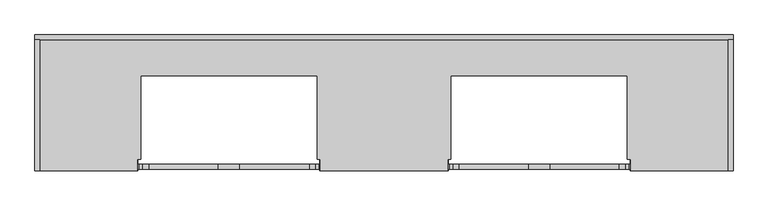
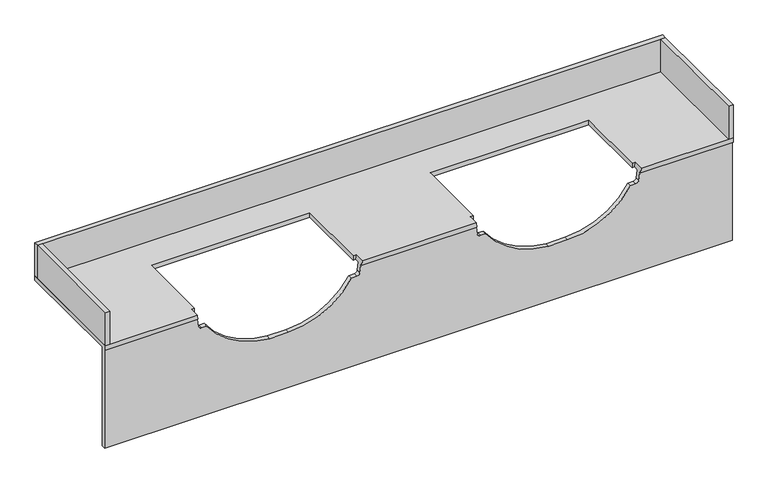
"""IFC4 building model written with IfcOpenShell, lengths in millimetres: furniture geometry, Vanity-Compact Laminate-Duracube-Semi Recessed Basin 350 : Basins with Splashback."""

from ifc_helpers import new_model, si_unit, frame, origin, place, context, project, spatial, polyline, circle_curve, outline, extrude, source, transform, mapped, element, save
from ifc_brep_helpers import plane_surface, revolved_surface, advanced_brep


def furniture_7959323d(model_context):
    return source(origin(), model_context, "Body", "SolidModel", [
        extrude(outline(polyline([(1787.0, -13.0), (1800.0, -13.0), (1800.0, -350.0), (1787.0, -350.0), (1787.0, -13.0)])), frame((0.0, 0.0, 850.0), z_axis=(0.0, 0.0, 1.0), x_axis=(1.0, 0.0, 0.0)), (0.0, 0.0, 1.0), 100.0),
        extrude(outline(polyline([(13.0, -13.0), (13.0, -350.0), (0.0, -350.0), (0.0, -13.0), (13.0, -13.0)])), frame((0.0, 0.0, 850.0), z_axis=(0.0, 0.0, 1.0), x_axis=(1.0, 0.0, 0.0)), (0.0, 0.0, 1.0), 100.0),
        extrude(outline(polyline([(1800.0, 0.0), (1800.0, -13.0), (0.0, -13.0), (0.0, 0.0), (1800.0, 0.0)])), frame((0.0, 0.0, 850.0), z_axis=(0.0, 0.0, 1.0), x_axis=(1.0, 0.0, 0.0)), (0.0, 0.0, 1.0), 100.0),
        advanced_brep(
        [(1800.0, -350.0, 850.0), (1800.0, 0.0, 850.0), (0.0, 0.0, 850.0), (0.0, -350.0, 850.0), (263.8626515, -350.0, 850.0), (263.8626515, -320.0, 850.0), (272.5000111, -320.0, 850.0), (272.5000111, -105.0, 850.0), (727.5, -105.0, 850.0), (727.5, -320.0, 850.0), (736.1373485, -320.0, 850.0), (736.1373485, -350.0, 850.0), (1063.8626515, -350.0, 850.0), (1063.8626515, -320.0, 850.0), (1072.5000111, -320.0, 850.0), (1072.5000111, -105.0, 850.0), (1527.5, -105.0, 850.0), (1527.5, -320.0, 850.0), (1536.1373485, -320.0, 850.0), (1536.1373485, -350.0, 850.0), (1796.5, -333.5, 537.0), (1800.0, -333.5, 537.0), (1800.0, -346.5, 537.0), (0.0, -346.5, 537.0), (0.0, -333.5, 537.0), (3.5, -333.5, 537.0), (0.0, -350.0, 837.0), (265.3828328, -350.0, 837.0), (734.6171556, -350.0, 837.0), (1065.3828328, -350.0, 837.0), (1534.6171556, -350.0, 837.0), (1800.0, -350.0, 837.0), (1800.0, -346.5, 837.0), (1800.0, -333.5, 837.0), (1800.0, 0.0, 837.0), (1796.5, 0.0, 837.0), (3.5, 0.0, 837.0), (0.0, 0.0, 837.0), (0.0, -333.5, 837.0), (0.0, -346.5, 837.0), (1065.3828328, -333.5, 837.0), (734.6171556, -333.5, 837.0), (734.6171556, -320.0, 837.0), (727.5, -320.0, 837.0), (727.5, -105.0, 837.0), (272.5000111, -105.0, 837.0), (272.5000111, -320.0, 837.0), (265.3828328, -320.0, 837.0), (265.3828328, -333.5, 837.0), (3.5, -333.5, 837.0), (1796.5, -333.5, 837.0), (1534.6171556, -333.5, 837.0), (1534.6171556, -320.0, 837.0), (1527.5, -320.0, 837.0), (1527.5, -105.0, 837.0), (1072.5000111, -105.0, 837.0), (1072.5000111, -320.0, 837.0), (1065.3828328, -320.0, 837.0), (1068.2715574, -333.5, 812.2967497), (1076.9963347, -333.5, 805.1990689), (1092.8913506, -333.5, 805.1990689), (1273.1635698, -333.5, 704.2423212), (1326.8364091, -333.5, 704.2423212), (1507.1086036, -333.5, 805.1991647), (1523.003675, -333.5, 805.1991647), (1531.7284128, -333.5, 812.2967818), (268.2715574, -333.5, 812.2967497), (276.9963347, -333.5, 805.1990689), (292.8913506, -333.5, 805.1990689), (473.1635698, -333.5, 704.2423212), (526.8364091, -333.5, 704.2423212), (707.1086036, -333.5, 805.1991647), (723.003675, -333.5, 805.1991647), (731.7284128, -333.5, 812.2967818), (1534.6171556, -346.5, 837.0), (734.6171556, -346.5, 837.0), (1065.3828328, -346.5, 837.0), (265.3828328, -346.5, 837.0), (1531.7284128, -346.5, 812.2967818), (1523.003675, -346.5, 805.1991647), (1507.1086036, -346.5, 805.1991647), (1326.8364091, -346.5, 704.2423212), (1273.1635698, -346.5, 704.2423212), (1092.8913506, -346.5, 805.1990689), (1076.9963347, -346.5, 805.1990689), (1068.2715574, -346.5, 812.2967497), (731.7284128, -346.5, 812.2967818), (723.003675, -346.5, 805.1991647), (707.1086036, -346.5, 805.1991647), (526.8364091, -346.5, 704.2423212), (473.1635698, -346.5, 704.2423212), (292.8913506, -346.5, 805.1990689), (276.9963347, -346.5, 805.1990689), (268.2715574, -346.5, 812.2967497)],
        [
            (0, 1),
            (1, 2),
            (2, 3),
            (3, 4),
            (4, 5),
            (5, 6),
            (6, 7),
            (7, 8),
            (8, 9),
            (9, 10),
            (10, 11),
            (11, 12),
            (12, 13),
            (13, 14),
            (14, 15),
            (15, 16),
            (16, 17),
            (17, 18),
            (18, 19),
            (19, 0),
            (20, 21),
            (21, 22),
            (22, 23),
            (23, 24),
            (24, 25),
            (25, 20),
            (3, 26),
            (26, 27),
            (27, 4),
            (11, 28),
            (28, 29),
            (29, 12),
            (19, 30),
            (30, 31),
            (31, 0),
            (31, 32),
            (32, 22),
            (21, 33),
            (33, 34),
            (34, 1),
            (34, 35),
            (35, 36),
            (36, 37),
            (37, 2),
            (37, 38),
            (38, 24),
            (23, 39),
            (39, 26),
            (40, 41),
            (41, 42),
            (42, 43),
            (43, 44),
            (44, 45),
            (45, 46),
            (46, 47),
            (47, 48),
            (48, 49),
            (49, 38),
            (33, 50),
            (50, 51),
            (51, 52),
            (52, 53),
            (53, 54),
            (54, 55),
            (55, 56),
            (56, 57),
            (57, 40),
            (40, 58),
            (58, 59, circle_curve(frame((1076.8018663, -333.5, 813.8712979), z_axis=(0.0, -1.0, 0.0), x_axis=(-1.0, 0.0, 0.0)), 8.6744091)),
            (59, 60),
            (60, 61, circle_curve(frame((1286.0899955, -333.5, 938.7530888), z_axis=(0.0, -1.0, 0.0), x_axis=(-1.0, 0.0, 0.0)), 234.866755)),
            (61, 62),
            (62, 63, circle_curve(frame((1326.8364091, -333.5, 915.6710212), z_axis=(0.0, -1.0, 0.0), x_axis=(-1.0, 0.0, 0.0)), 211.4287)),
            (63, 64),
            (64, 65, circle_curve(frame((1523.1981539, -333.5, 813.8713473), z_axis=(0.0, -1.0, 0.0), x_axis=(-1.0, 0.0, 0.0)), 8.674363)),
            (65, 51),
            (48, 66),
            (66, 67, circle_curve(frame((276.8018663, -333.5, 813.8712979), z_axis=(0.0, -1.0, 0.0), x_axis=(-1.0, 0.0, 0.0)), 8.6744091)),
            (67, 68),
            (68, 69, circle_curve(frame((486.0899955, -333.5, 938.7530888), z_axis=(0.0, -1.0, 0.0), x_axis=(-1.0, 0.0, 0.0)), 234.866755)),
            (69, 70),
            (70, 71, circle_curve(frame((526.8364091, -333.5, 915.6710212), z_axis=(0.0, -1.0, 0.0), x_axis=(-1.0, 0.0, 0.0)), 211.4287)),
            (71, 72),
            (72, 73, circle_curve(frame((723.1981539, -333.5, 813.8713473), z_axis=(0.0, -1.0, 0.0), x_axis=(-1.0, 0.0, 0.0)), 8.674363)),
            (73, 41),
            (74, 32),
            (30, 74),
            (75, 76),
            (76, 29),
            (28, 75),
            (39, 77),
            (77, 27),
            (74, 78),
            (78, 79, circle_curve(frame((1523.1981539, -346.5, 813.8713473), z_axis=(0.0, 1.0, 0.0), x_axis=(-1.0, 0.0, 0.0)), 8.674363)),
            (79, 80),
            (80, 81, circle_curve(frame((1326.8364091, -346.5, 915.6710212), z_axis=(0.0, 1.0, 0.0), x_axis=(-1.0, 0.0, 0.0)), 211.4287)),
            (81, 82),
            (82, 83, circle_curve(frame((1286.0899955, -346.5, 938.7530888), z_axis=(0.0, 1.0, 0.0), x_axis=(-1.0, 0.0, 0.0)), 234.866755)),
            (83, 84),
            (84, 85, circle_curve(frame((1076.8018663, -346.5, 813.8712979), z_axis=(0.0, 1.0, 0.0), x_axis=(-1.0, 0.0, 0.0)), 8.6744091)),
            (85, 76),
            (75, 86),
            (86, 87, circle_curve(frame((723.1981539, -346.5, 813.8713473), z_axis=(0.0, 1.0, 0.0), x_axis=(-1.0, 0.0, 0.0)), 8.674363)),
            (87, 88),
            (88, 89, circle_curve(frame((526.8364091, -346.5, 915.6710212), z_axis=(0.0, 1.0, 0.0), x_axis=(-1.0, 0.0, 0.0)), 211.4287)),
            (89, 90),
            (90, 91, circle_curve(frame((486.0899955, -346.5, 938.7530888), z_axis=(0.0, 1.0, 0.0), x_axis=(-1.0, 0.0, 0.0)), 234.866755)),
            (91, 92),
            (92, 93, circle_curve(frame((276.8018663, -346.5, 813.8712979), z_axis=(0.0, 1.0, 0.0), x_axis=(-1.0, 0.0, 0.0)), 8.6744091)),
            (93, 77),
            (61, 82),
            (81, 62),
            (64, 79),
            (78, 65),
            (16, 54),
            (53, 17),
            (15, 55),
            (14, 56),
            (18, 52),
            (13, 57),
            (80, 63),
            (85, 58),
            (84, 59),
            (83, 60),
            (8, 44),
            (43, 9),
            (7, 45),
            (6, 46),
            (5, 47),
            (42, 10),
            (69, 90),
            (89, 70),
            (88, 71),
            (87, 72),
            (86, 73),
            (93, 66),
            (92, 67),
            (91, 68),
        ],
        [
            plane_surface(frame((1800.0, -350.0, 850.0), z_axis=(0.0, 0.0, 1.0), x_axis=(1.0, 0.0, 0.0))),
            plane_surface(frame((1800.0, -350.0, 537.0), z_axis=(0.0, 0.0, -1.0), x_axis=(-1.0, 0.0, 0.0))),
            plane_surface(frame((0.0, -350.0, 850.0), z_axis=(0.0, -1.0, 0.0), x_axis=(0.0, 0.0, -1.0))),
            plane_surface(frame((1800.0, -350.0, 850.0), z_axis=(1.0, 0.0, 0.0), x_axis=(0.0, 0.0, -1.0))),
            plane_surface(frame((1800.0, 0.0, 850.0), z_axis=(0.0, 1.0, 0.0), x_axis=(0.0, 0.0, -1.0))),
            plane_surface(frame((0.0, 0.0, 850.0), z_axis=(-1.0, 0.0, 0.0), x_axis=(0.0, 0.0, -1.0))),
            plane_surface(frame((0.0, 0.0, 837.0), z_axis=(0.0, 0.0, -1.0), x_axis=(-1.0, 0.0, 0.0))),
            plane_surface(frame((0.0, -333.5, 837.0), z_axis=(0.0, 1.0, 0.0), x_axis=(0.0, 0.0, -1.0))),
            plane_surface(frame((0.0, -346.5, 837.0), z_axis=(0.0, 0.0, -1.0), x_axis=(-1.0, 0.0, 0.0))),
            plane_surface(frame((1800.0, -346.5, 837.0), z_axis=(0.0, -1.0, 0.0), x_axis=(0.0, 0.0, -1.0))),
            plane_surface(frame((1273.1635698, -350.0, 704.2423212), z_axis=(0.0, 0.0, 1.0), x_axis=(0.0, 1.0, 0.0))),
            revolved_surface(polyline([(1514.5237909, -346.5, 813.8713473), (1514.5237909, -333.5, 813.8713473)]), (1523.1981539, -320.0, 813.8713473), (0.0, -1.0, 0.0)),
            plane_surface(frame((1527.5, -320.0, 850.0), z_axis=(-1.0, 0.0, 0.0), x_axis=(0.0, 0.0, -1.0))),
            plane_surface(frame((1527.5, -105.0, 850.0), z_axis=(0.0, -1.0, 0.0), x_axis=(0.0, 0.0, -1.0))),
            plane_surface(frame((1072.5000111, -105.0, 850.0), z_axis=(1.0, 0.0, 0.0), x_axis=(0.0, 0.0, -1.0))),
            plane_surface(frame((1531.7284128, -350.0, 812.2967818), z_axis=(-0.9932320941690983, 0.0, 0.11614648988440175), x_axis=(0.0, 1.0, 0.0))),
            plane_surface(frame((1273.1635698, -320.0, 704.2423212), z_axis=(0.0, -1.0, 0.0), x_axis=(-1.0, 0.0, 0.0))),
            revolved_surface(polyline([(1115.4077091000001, -346.5, 915.6710212), (1115.4077091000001, -333.5, 915.6710212)]), (1326.8364091, -320.0, 915.6710212), (0.0, -1.0, 0.0)),
            plane_surface(frame((1507.1086036, -350.0, 805.1991647), z_axis=(0.0, 0.0, 1.0), x_axis=(0.0, 1.0, 0.0))),
            plane_surface(frame((1063.8626515, -350.0, 850.0), z_axis=(0.9932321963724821, 0.0, 0.11614561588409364), x_axis=(0.0, 1.0, 0.0))),
            revolved_surface(polyline([(1068.1274572, -346.5, 813.8712979), (1068.1274572, -333.5, 813.8712979)]), (1076.8018663, -320.0, 813.8712979), (0.0, -1.0, 0.0)),
            plane_surface(frame((1076.9963347, -350.0, 805.1990689), z_axis=(0.0, 0.0, 1.0), x_axis=(0.0, 1.0, 0.0))),
            revolved_surface(polyline([(1051.2232405, -346.5, 938.7530888), (1051.2232405, -333.5, 938.7530888)]), (1286.0899955, -320.0, 938.7530888), (0.0, -1.0, 0.0)),
            plane_surface(frame((727.5, -320.0, 850.0), z_axis=(-1.0, 0.0, 0.0), x_axis=(0.0, 0.0, -1.0))),
            plane_surface(frame((727.5, -105.0, 850.0), z_axis=(0.0, -1.0, 0.0), x_axis=(0.0, 0.0, -1.0))),
            plane_surface(frame((272.5000111, -105.0, 850.0), z_axis=(1.0, 0.0, 0.0), x_axis=(0.0, 0.0, -1.0))),
            plane_surface(frame((473.1635698, -320.0, 704.2423212), z_axis=(0.0, -1.0, 0.0), x_axis=(-1.0, 0.0, 0.0))),
            plane_surface(frame((473.1635698, -350.0, 704.2423212), z_axis=(0.0, 0.0, 1.0), x_axis=(0.0, 1.0, 0.0))),
            revolved_surface(polyline([(315.4077091, -346.5, 915.6710212), (315.4077091, -333.5, 915.6710212)]), (526.8364091, -320.0, 915.6710212), (0.0, -1.0, 0.0)),
            plane_surface(frame((707.1086036, -350.0, 805.1991647), z_axis=(0.0, 0.0, 1.0), x_axis=(0.0, 1.0, 0.0))),
            revolved_surface(polyline([(714.5237909, -346.5, 813.8713473), (714.5237909, -333.5, 813.8713473)]), (723.1981539, -320.0, 813.8713473), (0.0, -1.0, 0.0)),
            plane_surface(frame((731.7284128, -350.0, 812.2967818), z_axis=(-0.9932320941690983, 0.0, 0.11614648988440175), x_axis=(0.0, 1.0, 0.0))),
            plane_surface(frame((263.8626515, -350.0, 850.0), z_axis=(0.9932321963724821, 0.0, 0.11614561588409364), x_axis=(0.0, 1.0, 0.0))),
            revolved_surface(polyline([(268.1274572, -346.5, 813.8712979), (268.1274572, -333.5, 813.8712979)]), (276.8018663, -320.0, 813.8712979), (0.0, -1.0, 0.0)),
            plane_surface(frame((276.9963347, -350.0, 805.1990689), z_axis=(0.0, 0.0, 1.0), x_axis=(0.0, 1.0, 0.0))),
            revolved_surface(polyline([(251.22324049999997, -346.5, 938.7530888), (251.22324049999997, -333.5, 938.7530888)]), (486.0899955, -320.0, 938.7530888), (0.0, -1.0, 0.0)),
        ],
        [
            (0, [[1, 2, 3, 4, 5, 6, 7, 8, 9, 10, 11, 12, 13, 14, 15, 16, 17, 18, 19, 20]]),
            (1, [[21, 22, 23, 24, 25, 26]]),
            (2, [[-4, 27, 28, 29]]),
            (2, [[-12, 30, 31, 32]]),
            (2, [[-20, 33, 34, 35]]),
            (3, [[-1, -35, 36, 37, -22, 38, 39, 40]]),
            (4, [[-2, -40, 41, 42, 43, 44]]),
            (5, [[-3, -44, 45, 46, -24, 47, 48, -27]]),
            (6, [[49, 50, 51, 52, 53, 54, 55, 56, 57, 58, -45, -43, -42, -41, -39, 59, 60, 61, 62, 63, 64, 65, 66, 67]]),
            (7, [[-49, 68, 69, 70, 71, 72, 73, 74, 75, 76, -60, -59, -38, -21, -26, -25, -46, -58, -57, 77, 78, 79, 80, 81, 82, 83, 84, 85]]),
            (8, [[86, -36, -34, 87]]),
            (8, [[88, 89, -31, 90]]),
            (8, [[91, 92, -28, -48]]),
            (9, [[-86, 93, 94, 95, 96, 97, 98, 99, 100, 101, -88, 102, 103, 104, 105, 106, 107, 108, 109, 110, -91, -47, -23, -37]]),
            (10, [[-72, 111, -97, 112]]),
            (11, [[-75, 113, -94, 114]]),
            (12, [[-17, 115, -63, 116]]),
            (13, [[-16, 117, -64, -115]]),
            (14, [[-15, 118, -65, -117]]),
            (15, [[-19, 119, -61, -76, -114, -93, -87, -33]]),
            (16, [[-14, 120, -66, -118]]),
            (16, [[-18, -116, -62, -119]]),
            (17, [[-73, -112, -96, 121]]),
            (18, [[-74, -121, -95, -113]]),
            (19, [[-13, -32, -89, -101, 122, -68, -67, -120]]),
            (20, [[-69, -122, -100, 123]]),
            (21, [[-70, -123, -99, 124]]),
            (22, [[-71, -124, -98, -111]]),
            (23, [[-9, 125, -52, 126]]),
            (24, [[-8, 127, -53, -125]]),
            (25, [[-7, 128, -54, -127]]),
            (26, [[-6, 129, -55, -128]]),
            (26, [[-10, -126, -51, 130]]),
            (27, [[-81, 131, -106, 132]]),
            (28, [[-82, -132, -105, 133]]),
            (29, [[-83, -133, -104, 134]]),
            (30, [[-84, -134, -103, 135]]),
            (31, [[-11, -130, -50, -85, -135, -102, -90, -30]]),
            (32, [[-5, -29, -92, -110, 136, -77, -56, -129]]),
            (33, [[-78, -136, -109, 137]]),
            (34, [[-79, -137, -108, 138]]),
            (35, [[-80, -138, -107, -131]]),
        ],
    ),
    ])


if __name__ == "__main__":
    model = new_model("IFC4")
    model_context = context("Model", 3, world=origin())
    ifc_project = project(units=[si_unit("LENGTHUNIT", "METRE", prefix="MILLI")], contexts=[model_context])
    site = spatial("IfcSite", under=ifc_project)
    building = spatial("IfcBuilding", under=site)
    placement = place(None, origin())
    furniture_shape = furniture_7959323d(model_context)
    element("IfcFurniture", 1, ObjectType="Vanity-Compact Laminate-Duracube-Semi Recessed Basin 350 : Basins with Splashback", at=placement, inside=building, context=model_context, shape_type="MappedRepresentation", body=[
        mapped(furniture_shape, transform((0.0, 0.0, 0.0), x_axis=(1.0, 0.0, 0.0), y_axis=(0.0, 1.0, 0.0), z_axis=(0.0, 0.0, 1.0))),
    ])
    save(model, "model.ifc")
